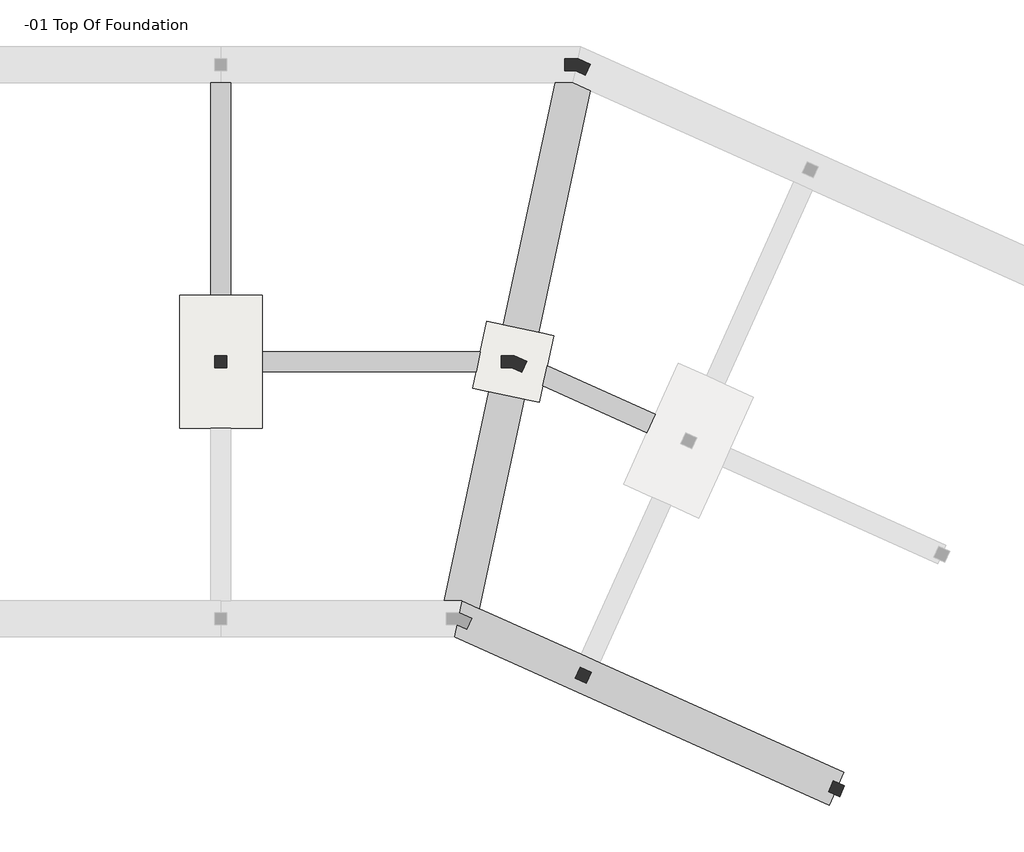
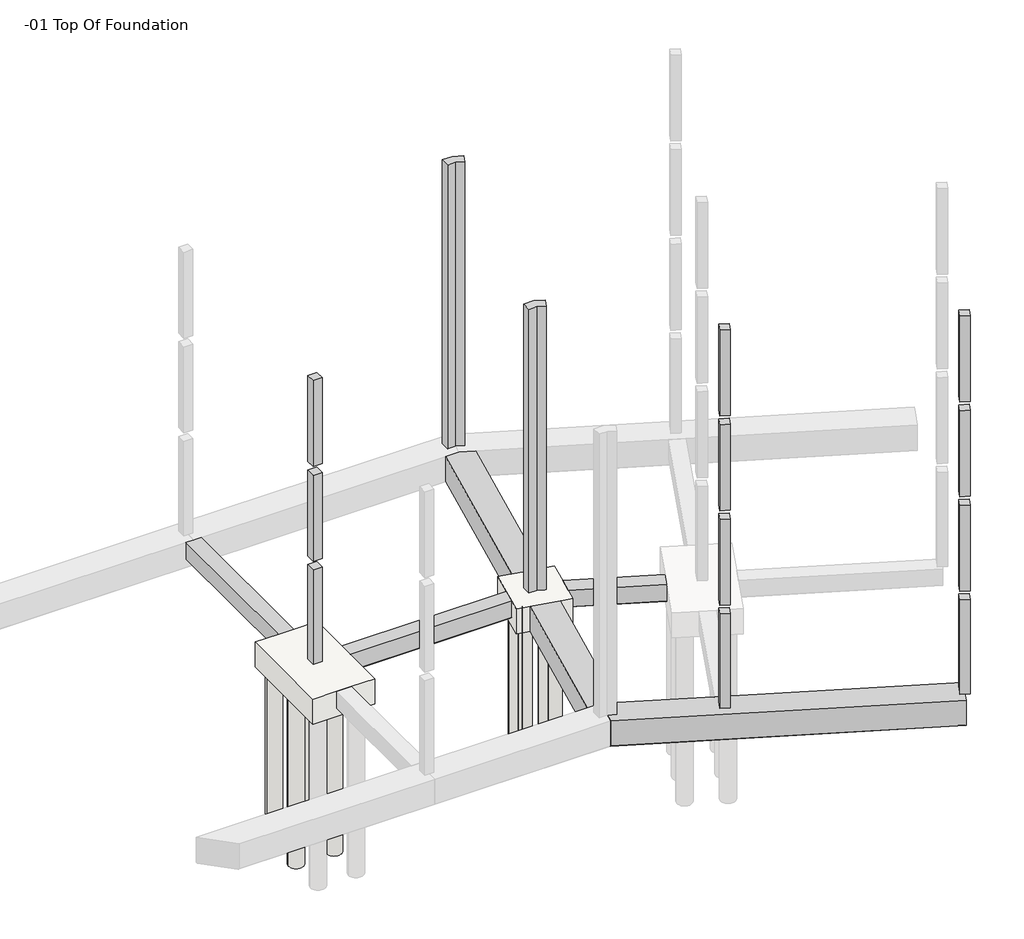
# One storey, part 3 of 4: 10 slabs, 5 beams, 5 columns.
"""IFC4 building model written with IfcOpenShell, lengths in millimetres."""

from ifc_helpers import new_model, si_unit, point, frame, frame_2d, origin, place, context, project, spatial, polyline, circle_curve, ellipse_curve, trimmed, segment, composite_curve, outline, extrude, faceted_brep, element, save
from ifc_brep_helpers import plane_surface, cylinder_surface, revolved_surface, advanced_brep

model = new_model("IFC4")

# Units and contexts
model_context = context("Model", 3, world=origin())
ifc_project = project(units=[si_unit("LENGTHUNIT", "METRE", prefix="MILLI")], contexts=[model_context])

# Site, building, storey
site = spatial("IfcSite", under=ifc_project)
building = spatial("IfcBuilding", under=site)
storey = spatial("IfcBuildingStorey", under=building, Name="-01 Top Of Foundation", Elevation=-304.8)

# Beams
placement = place(None, origin())
element("IfcBeam", 1, ObjectType="Ring Beam : 12 x 24", at=placement, inside=storey, context=model_context, shape_type="Brep", body=[
    faceted_brep([(30254.0535171, -7606.2877938, -304.8), (30145.1963742, -8114.2877938, -304.8), (32770.921512, -9293.7579091, -304.8), (32979.0776096, -8830.3627872, -304.8), (30145.1963742, -8114.2877938, -889.0), (32770.921512, -9293.7579091, -889.0), (30150.6392314, -8088.8877938, -914.4), (32781.3293169, -9270.588153, -914.4), (30248.61066, -7631.6877938, -914.4), (32968.6698047, -8853.5325433, -914.4), (30254.0535171, -7606.2877938, -889.0), (32979.0776096, -8830.3627872, -889.0)], [[[0, 1, 2, 3]], [[1, 4, 5, 2]], [[4, 6, 7, 5]], [[6, 8, 9, 7]], [[8, 10, 11, 9]], [[10, 0, 3, 11]], [[1, 0, 10, 8, 6, 4]], [[3, 2, 5, 7, 9, 11]]]),
])
element("IfcBeam", 2, ObjectType="Ring Beam : 12 x 24", at=placement, inside=storey, context=model_context, shape_type="Brep", body=[
    faceted_brep([(23050.5, -7251.7, -304.8), (23050.5, -7759.7, -304.8), (28454.7694343, -7759.7, -304.8), (28563.6265772, -7251.7, -304.8), (23050.5, -7759.7, -889.0), (28454.7694343, -7759.7, -889.0), (23050.5, -7734.3, -914.4), (28460.2122914, -7734.3, -914.4), (23050.5, -7277.1, -914.4), (28558.18372, -7277.1, -914.4), (23050.5, -7251.7, -889.0), (28563.6265772, -7251.7, -889.0)], [[[0, 1, 2, 3]], [[1, 4, 5, 2]], [[4, 6, 7, 5]], [[6, 8, 9, 7]], [[8, 10, 11, 9]], [[10, 0, 3, 11]], [[1, 0, 10, 8, 6, 4]], [[3, 2, 5, 7, 9, 11]]]),
])
element("IfcBeam", 3, ObjectType="Ring Beam : 12 x 24", at=placement, inside=storey, context=model_context, shape_type="Brep", body=[
    faceted_brep([(22263.1, -457.2, -304.8), (22009.1, -457.2, -304.8), (21755.1, -457.2, -304.8), (21755.1, -5829.3, -304.8), (22263.1, -5829.3, -304.8), (22263.1, -457.2, -889.0), (22263.1, -5829.3, -889.0), (22237.7, -457.2, -914.4), (22237.7, -5829.3, -914.4), (21780.5, -457.2, -914.4), (21780.5, -5829.3, -914.4), (21755.1, -457.2, -889.0), (21755.1, -5829.3, -889.0)], [[[0, 1, 2, 3, 4]], [[5, 0, 4, 6]], [[7, 5, 6, 8]], [[9, 7, 8, 10]], [[11, 9, 10, 12]], [[2, 11, 12, 3]], [[0, 5, 7, 9, 11, 2, 1]], [[4, 3, 12, 10, 8, 6]]]),
])
element("IfcBeam", 4, ObjectType="Ring Beam : 16 x 32", at=placement, inside=storey, context=model_context, shape_type="Brep", body=[
    faceted_brep([(28099.7244536, -13538.2, -304.8), (28034.4101679, -13843.0, -304.8), (27969.0988162, -14147.786308, -304.8), (27903.7815965, -14452.6, -304.8), (37370.2819449, -18704.9317073, -304.8), (37474.3599937, -18473.2341463, -304.8), (37744.9629205, -17870.8204878, -304.8), (31581.8077985, -15102.3443902, -304.8), (31118.4126766, -14894.1882927, -304.8), (28542.523194, -13737.104247, -304.8), (27903.7815965, -14452.6, -1193.8), (37370.2819449, -18704.9317073, -1193.8), (27909.2244536, -14427.2, -1219.2), (37380.6897498, -18681.7619512, -1219.2), (28094.2815965, -13563.6, -1219.2), (28513.3845925, -13751.8601693, -1219.2), (37734.5551156, -17893.9902439, -1219.2), (28099.7244536, -13538.2, -1193.8), (28542.523194, -13737.104247, -1193.8), (37744.9629205, -17870.8204878, -1193.8)], [[[0, 1, 2, 3, 4, 5, 6, 7, 8, 9]], [[3, 10, 11, 4]], [[10, 12, 13, 11]], [[12, 14, 15, 16, 13]], [[14, 17, 18, 19, 16, 15]], [[17, 0, 9, 8, 7, 6, 19, 18]], [[0, 17, 14, 12, 10, 3, 2, 1]], [[4, 11, 13, 16, 19, 6, 5]]]),
])
element("IfcBeam", 5, ObjectType="Ring Beam : 16 x 32", at=placement, inside=storey, context=model_context, shape_type="AdvancedBrep", body=[
    advanced_brep(
    [(31345.5946226, -656.104247, -304.8), (30902.7958822, -457.2, -304.8), (30453.0587055, -457.2, -304.8), (29143.3597284, -6569.12856, -304.8), (30037.4622558, -6760.7219587, -304.8), (31345.5946226, -656.104247, -1193.8), (30037.4622558, -6760.7219587, -1193.8), (31327.3417353, -620.0601693, -1219.2), (29994.728735, -6960.1450558, -1193.8), (29970.017132, -6954.2416514, -1219.2), (28513.3845925, -13751.8601693, -1219.2), (28094.2815965, -13563.6, -1219.2), (27670.521038, -13563.6, -1219.2), (28849.8308143, -8060.1543772, -1219.2), (29048.2445125, -7899.5308752, -1219.2), (28933.0689643, -7671.7096775, -1219.2), (29041.4242131, -7166.0518498, -1219.2), (29239.8379112, -7005.4283477, -1219.2), (29124.662363, -6777.60715, -1219.2), (30484.4781809, -431.8, -1219.2), (30908.2387393, -431.8, -1219.2), (29736.5615376, -7111.8691248, -1219.2), (29884.9297736, -7351.3159905, -1219.2), (29778.4237333, -7848.3441788, -1219.2), (29544.9681388, -8005.9716523, -1219.2), (29693.3363749, -8245.418518, -1219.2), (30453.0587055, -457.2, -1193.8), (29100.6262076, -6768.551657, -1193.8), (29143.3597284, -6569.12856, -1193.8), (28542.523194, -13737.104247, -1193.8), (28099.7244536, -13538.2, -1193.8), (28542.523194, -13737.104247, -304.8), (28099.7244536, -13538.2, -304.8), (30902.7958822, -457.2, -1193.8), (27649.987277, -13538.2, -1193.8), (27649.987277, -13538.2, -304.8), (28781.4610863, -8257.9888896, -1193.8), (29675.5636138, -8449.5822883, -1193.8), (29718.2971346, -8250.1591913, -1193.8), (29544.9681388, -8005.9716523, -1193.8), (29803.1353363, -7854.2475832, -1193.8), (29909.8905333, -7356.0566638, -1193.8), (29736.5615376, -7111.8691248, -1193.8), (29239.8379112, -7005.4283477, -1193.8), (29015.7880059, -7164.4632651, -1193.8), (28909.0328089, -7662.6541845, -1193.8), (29048.2445125, -7899.5308752, -1193.8), (28824.1946071, -8058.5657925, -1193.8), (28781.4610863, -8257.9888896, -304.8), (29675.5636138, -8449.5822883, -304.8)],
    [
        (0, 1),
        (1, 2),
        (2, 3),
        (3, 4),
        (4, 0),
        (5, 0),
        (4, 6),
        (6, 5),
        (7, 5),
        (6, 8),
        (8, 9, ellipse_curve(frame((29935.2509881, -7154.4454357, -1211.245903), z_axis=(-0.691410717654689, 0.14815943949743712, 0.7071067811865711), x_axis=(0.691410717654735, -0.14815943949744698, 0.7071067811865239)), 287.3681959, 203.2)),
        (9, 7),
        (10, 11),
        (11, 12),
        (12, 13),
        (13, 14, circle_curve(frame((28849.5550619, -7856.9545643, -1219.2), z_axis=(0.0, 0.0, 1.0), x_axis=(-0.977802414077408, 0.20952908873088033, 0.0)), 203.2)),
        (14, 15, circle_curve(frame((28849.5550619, -7856.9545643, -1219.2), z_axis=(0.0, 0.0, 1.0), x_axis=(-0.977802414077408, 0.20952908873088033, 0.0)), 203.2)),
        (15, 16),
        (16, 17, circle_curve(frame((29041.1484607, -6962.8520369, -1219.2), z_axis=(0.0, 0.0, 1.0), x_axis=(-0.977802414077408, 0.20952908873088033, 0.0)), 203.2)),
        (17, 18, circle_curve(frame((29041.1484607, -6962.8520369, -1219.2), z_axis=(0.0, 0.0, 1.0), x_axis=(-0.977802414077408, 0.20952908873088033, 0.0)), 203.2)),
        (18, 19),
        (19, 20),
        (20, 7),
        (9, 21, circle_curve(frame((29935.2509881, -7154.4454357, -1219.2), z_axis=(0.0, 0.0, 1.0), x_axis=(-0.977802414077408, 0.20952908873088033, 0.0)), 203.2)),
        (21, 22, circle_curve(frame((29935.2509881, -7154.4454357, -1219.2), z_axis=(0.0, 0.0, 1.0), x_axis=(-0.977802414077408, 0.20952908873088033, 0.0)), 203.2)),
        (22, 23),
        (23, 24, circle_curve(frame((29743.6575894, -8048.5479631, -1219.2), z_axis=(0.0, 0.0, 1.0), x_axis=(-0.977802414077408, 0.20952908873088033, 0.0)), 203.2)),
        (24, 25, circle_curve(frame((29743.6575894, -8048.5479631, -1219.2), z_axis=(0.0, 0.0, 1.0), x_axis=(-0.977802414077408, 0.20952908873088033, 0.0)), 203.2)),
        (25, 10),
        (26, 19),
        (18, 27, ellipse_curve(frame((29041.1484607, -6962.8520369, -1176.354097), z_axis=(0.691410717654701, -0.14815943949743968, 0.7071067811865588), x_axis=(-0.691410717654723, 0.1481594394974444, 0.7071067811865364)), 287.3681959, 203.2)),
        (27, 28),
        (28, 26),
        (2, 26),
        (28, 3),
        (29, 30),
        (30, 11),
        (10, 29),
        (29, 31),
        (31, 32),
        (32, 30),
        (5, 33),
        (33, 1),
        (20, 33),
        (33, 26),
        (30, 34),
        (34, 12),
        (32, 35),
        (35, 34),
        (36, 37),
        (37, 38),
        (38, 39, circle_curve(frame((29743.6575894, -8048.5479631, -1193.8), z_axis=(0.0, 0.0, -1.0), x_axis=(-0.977802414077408, 0.20952908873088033, 0.0)), 203.2)),
        (39, 40, circle_curve(frame((29743.6575894, -8048.5479631, -1193.8), z_axis=(0.0, 0.0, -1.0), x_axis=(-0.977802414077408, 0.20952908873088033, 0.0)), 203.2)),
        (40, 41),
        (41, 42, circle_curve(frame((29935.2509881, -7154.4454357, -1193.8), z_axis=(0.0, 0.0, -1.0), x_axis=(-0.977802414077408, 0.20952908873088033, 0.0)), 203.2)),
        (42, 8, circle_curve(frame((29935.2509881, -7154.4454357, -1193.8), z_axis=(0.0, 0.0, -1.0), x_axis=(-0.977802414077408, 0.20952908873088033, 0.0)), 203.2)),
        (6, 28),
        (27, 43, circle_curve(frame((29041.1484607, -6962.8520369, -1193.8), z_axis=(0.0, 0.0, -1.0), x_axis=(-0.977802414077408, 0.20952908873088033, 0.0)), 203.2)),
        (43, 44, circle_curve(frame((29041.1484607, -6962.8520369, -1193.8), z_axis=(0.0, 0.0, -1.0), x_axis=(-0.977802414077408, 0.20952908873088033, 0.0)), 203.2)),
        (44, 45),
        (45, 46, circle_curve(frame((28849.5550619, -7856.9545643, -1193.8), z_axis=(0.0, 0.0, -1.0), x_axis=(-0.977802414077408, 0.20952908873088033, 0.0)), 203.2)),
        (46, 47, circle_curve(frame((28849.5550619, -7856.9545643, -1193.8), z_axis=(0.0, 0.0, -1.0), x_axis=(-0.977802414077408, 0.20952908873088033, 0.0)), 203.2)),
        (47, 36),
        (36, 48),
        (48, 49),
        (49, 37),
        (31, 49),
        (48, 35),
        (29, 37),
        (36, 34),
        (39, 24),
        (23, 40, ellipse_curve(frame((29743.6575894, -8048.5479631, -1211.245903), z_axis=(0.691410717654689, -0.14815943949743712, -0.7071067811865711), x_axis=(0.691410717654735, -0.14815943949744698, 0.7071067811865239)), 287.3681959, 203.2)),
        (38, 25, ellipse_curve(frame((29743.6575894, -8048.5479631, -1211.245903), z_axis=(0.691410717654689, -0.14815943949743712, -0.7071067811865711), x_axis=(0.691410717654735, -0.14815943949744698, 0.7071067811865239)), 287.3681959, 203.2)),
        (42, 21),
        (41, 22, ellipse_curve(frame((29935.2509881, -7154.4454357, -1211.245903), z_axis=(0.691410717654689, -0.14815943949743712, -0.7071067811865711), x_axis=(0.691410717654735, -0.14815943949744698, 0.7071067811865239)), 287.3681959, 203.2)),
        (17, 43),
        (16, 44, ellipse_curve(frame((29041.1484607, -6962.8520369, -1176.354097), z_axis=(-0.691410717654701, 0.14815943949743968, -0.7071067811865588), x_axis=(-0.691410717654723, 0.1481594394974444, 0.7071067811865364)), 287.3681959, 203.2)),
        (15, 45, ellipse_curve(frame((28849.5550619, -7856.9545643, -1176.354097), z_axis=(0.691410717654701, -0.14815943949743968, 0.7071067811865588), x_axis=(-0.691410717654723, 0.1481594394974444, 0.7071067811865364)), 287.3681959, 203.2)),
        (14, 46),
        (13, 47, ellipse_curve(frame((28849.5550619, -7856.9545643, -1176.354097), z_axis=(-0.691410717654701, 0.14815943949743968, -0.7071067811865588), x_axis=(-0.691410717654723, 0.1481594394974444, 0.7071067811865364)), 287.3681959, 203.2)),
    ],
    [
        plane_surface(frame((30448.8310757, -476.928939, -304.8), z_axis=(0.0, 0.0, 1.0), x_axis=(-0.20952908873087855, -0.9778024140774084, 0.0))),
        plane_surface(frame((31342.9336032, -668.5223377, -304.8), z_axis=(0.9778024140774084, -0.20952908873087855, 0.0), x_axis=(-0.20952908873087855, -0.9778024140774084, 0.0))),
        plane_surface(frame((31342.9336032, -668.5223377, -1193.8), z_axis=(0.691410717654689, -0.14815943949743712, -0.7071067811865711), x_axis=(-0.20952908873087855, -0.9778024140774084, 0.0))),
        plane_surface(frame((31318.0974219, -663.2002988, -1219.2), z_axis=(0.0, 0.0, -1.0), x_axis=(-0.20952908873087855, -0.9778024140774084, 0.0))),
        plane_surface(frame((30473.6672571, -482.2509778, -1219.2), z_axis=(-0.691410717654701, 0.14815943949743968, -0.7071067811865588), x_axis=(-0.20952908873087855, -0.9778024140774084, 0.0))),
        plane_surface(frame((30448.8310757, -476.928939, -1193.8), z_axis=(-0.9778024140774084, 0.20952908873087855, 0.0), x_axis=(-0.20952908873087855, -0.9778024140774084, 0.0))),
        plane_surface(frame((37722.9702376, -17888.7863415, -1219.2), z_axis=(-0.28974131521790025, -0.6450193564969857, 0.7071067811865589), x_axis=(-0.9121951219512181, 0.4097560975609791, 0.0))),
        plane_surface(frame((37733.3780425, -17865.6165854, -1193.8), z_axis=(-0.4097560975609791, -0.9121951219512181, 0.0), x_axis=(-0.9121951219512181, 0.4097560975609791, 0.0))),
        plane_surface(frame((43093.3975546, -5933.1921951, -304.8), z_axis=(0.4097560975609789, 0.9121951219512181, 0.0), x_axis=(-0.9121951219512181, 0.4097560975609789, 0.0))),
        plane_surface(frame((43093.3975546, -5933.1921951, -1193.8), z_axis=(0.2897413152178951, 0.6450193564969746, 0.7071067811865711), x_axis=(-0.9121951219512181, 0.4097560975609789, 0.0))),
        plane_surface(frame((30800.7268229, -457.2, -304.8), z_axis=(0.0, 1.0, 0.0), x_axis=(-1.0, 0.0, 0.0))),
        plane_surface(frame((30800.7268229, -457.2, -1193.8), z_axis=(0.0, 0.707106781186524, 0.7071067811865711), x_axis=(-1.0, 0.0, 0.0))),
        plane_surface(frame((27801.7125372, -13563.6, -1219.2), z_axis=(0.0, -0.7071067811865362, 0.7071067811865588), x_axis=(-1.0, 0.0, 0.0))),
        plane_surface(frame((27801.7125372, -13538.2, -1193.8), z_axis=(0.0, -1.0, 0.0), x_axis=(-1.0, 0.0, 0.0))),
        plane_surface(frame((30055.8838688, -8531.0794858, -1193.8), z_axis=(0.0, 0.0, 1.0000000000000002), x_axis=(-0.9778024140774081, 0.20952908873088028, 0.0))),
        plane_surface(frame((28367.0235392, -8169.1808438, -304.8), z_axis=(0.20952908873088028, 0.9778024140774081, 0.0), x_axis=(0.0, 0.0, -1.0))),
        plane_surface(frame((30417.7825109, -6842.2191562, -304.8), z_axis=(-0.20952908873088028, -0.9778024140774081, 0.0), x_axis=(0.0, 0.0, -1.0))),
        revolved_surface(polyline([(29544.968138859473, -8005.9716522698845, -1008.045902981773), (29544.968138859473, -8005.9716522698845, -1414.445903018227)]), (29743.6575894, -8048.5479631, -6070.6), (0.0, 0.0, 1.0)),
        revolved_surface(polyline([(29736.56153755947, -7111.869124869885, -1008.045902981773), (29736.56153755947, -7111.869124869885, -1414.445903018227)]), (29935.2509881, -7154.4454357, -6070.6), (0.0, 0.0, 1.0)),
        revolved_surface(polyline([(28842.45901015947, -6920.2757260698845, -973.1540969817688), (28842.45901015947, -6920.2757260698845, -1379.55409701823)]), (29041.1484607, -6962.8520369, -6070.6), (0.0, 0.0, 1.0)),
        revolved_surface(polyline([(28650.86561135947, -7814.378253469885, -973.1540969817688), (28650.86561135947, -7814.378253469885, -1379.55409701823)]), (28849.5550619, -7856.9545643, -6070.6), (0.0, 0.0, 1.0)),
    ],
    [
        (0, [[1, 2, 3, 4, 5]]),
        (1, [[6, -5, 7, 8]]),
        (2, [[9, -8, 10, 11, 12]]),
        (3, [[13, 14, 15, 16, 17, 18, 19, 20, 21, 22, 23, -12, 24, 25, 26, 27, 28, 29]]),
        (4, [[30, -21, 31, 32, 33]]),
        (5, [[34, -33, 35, -3]]),
        (6, [[36, 37, -13, 38]]),
        (7, [[-36, 39, 40, 41]]),
        (8, [[42, 43, -1, -6]]),
        (9, [[-42, -9, -23, 44]]),
        (10, [[45, -34, -2, -43]]),
        (11, [[-45, -44, -22, -30]]),
        (12, [[46, 47, -14, -37]]),
        (13, [[-46, -41, 48, 49]]),
        (14, [[50, 51, 52, 53, 54, 55, 56, -10, 57, -32, 58, 59, 60, 61, 62, 63]]),
        (15, [[-50, 64, 65, 66]]),
        (16, [[-57, -7, -4, -35]]),
        (0, [[-40, 67, -65, 68, -48]]),
        (1, [[-39, 69, -66, -67]]),
        (5, [[-49, -68, -64, 70]]),
        (17, [[71, -27, 72, -53]]),
        (17, [[-71, -52, 73, -28]]),
        (2, [[-38, -29, -73, -51, -69]]),
        (18, [[74, -24, -11, -56]]),
        (18, [[-74, -55, 75, -25]]),
        (2, [[-72, -26, -75, -54]]),
        (19, [[76, -58, -31, -20]]),
        (19, [[-76, -19, 77, -59]]),
        (4, [[-77, -18, 78, -60]]),
        (20, [[79, -61, -78, -17]]),
        (20, [[-79, -16, 80, -62]]),
        (4, [[-47, -70, -63, -80, -15]]),
    ],
),
])

# Columns
element("IfcColumn", 6, ObjectType="Cranked Corner Column : CC1", at=placement, inside=storey, context=model_context, shape_type="Brep", body=[
    faceted_brep([(30695.9673107, 152.4, -304.8), (31033.3910427, 152.4, -304.8), (31341.2512132, 14.124878, -304.8), (31216.3575546, -263.9121951, -304.8), (30968.1435788, -152.4, -304.8), (30695.9673107, -152.4, -304.8), (30695.9673107, 152.4, 9753.6), (31033.3910427, 152.4, 9753.6), (31341.2512132, 14.124878, 9753.6), (31341.2512132, 14.124878, 6705.6), (31341.2512132, 14.124878, 6400.8), (31341.2512132, 14.124878, 3352.8), (31341.2512132, 14.124878, 3048.0), (31341.2512132, 14.124878, 0.0), (31216.3575546, -263.9121951, 9753.6), (31216.3575546, -263.9121951, 6705.6), (31216.3575546, -263.9121951, 6400.8), (31216.3575546, -263.9121951, 3352.8), (31216.3575546, -263.9121951, 3048.0), (31216.3575546, -263.9121951, 0.0), (30968.1435788, -152.4, 9753.6), (30695.9673107, -152.4, 9753.6)], [[[0, 1, 2, 3, 4, 5]], [[6, 7, 1, 0]], [[7, 8, 9, 10, 11, 12, 13, 2, 1]], [[8, 14, 15, 16, 17, 18, 19, 3, 2, 13, 12, 11, 10, 9]], [[14, 20, 4, 3, 19, 18, 17, 16, 15]], [[20, 21, 5, 4]], [[21, 6, 0, 5]], [[6, 21, 20, 14, 8, 7]]]),
])
element("IfcColumn", 7, ObjectType="Cranked Corner Column : CC1", at=placement, inside=storey, context=model_context, shape_type="Brep", body=[
    faceted_brep([(29087.603025, -7353.3, -304.8), (29425.026757, -7353.3, -304.8), (29732.8869275, -7491.575122, -304.8), (29607.9932689, -7769.6121951, -304.8), (29359.7792931, -7658.1, -304.8), (29087.603025, -7658.1, -304.8), (29087.603025, -7353.3, 9753.6), (29425.026757, -7353.3, 9753.6), (29732.8869275, -7491.575122, 9753.6), (29732.8869275, -7491.575122, 6705.6), (29732.8869275, -7491.575122, 6400.8), (29732.8869275, -7491.575122, 3352.8), (29732.8869275, -7491.575122, 3048.0), (29732.8869275, -7491.575122, 0.0), (29607.9932689, -7769.6121951, 9753.6), (29607.9932689, -7769.6121951, 6705.6), (29607.9932689, -7769.6121951, 6400.8), (29607.9932689, -7769.6121951, 3352.8), (29607.9932689, -7769.6121951, 3048.0), (29607.9932689, -7769.6121951, 0.0), (29359.7792931, -7658.1, 9753.6), (29087.603025, -7658.1, 9753.6)], [[[0, 1, 2, 3, 4, 5]], [[6, 7, 1, 0]], [[7, 8, 9, 10, 11, 12, 13, 2, 1]], [[8, 14, 15, 16, 17, 18, 19, 3, 2, 13, 12, 11, 10, 9]], [[14, 20, 4, 3, 19, 18, 17, 16, 15]], [[20, 21, 5, 4]], [[21, 6, 0, 5]], [[6, 21, 20, 14, 8, 7]]]),
])
element("IfcColumn", 8, ObjectType="Concrete-Rectangular-Column : 12 x 12", at=placement, inside=storey, context=model_context, shape_type="Brep", body=[
    faceted_brep([(22161.5, -7353.3, -304.8), (22161.5, -7658.1, -304.8), (21856.7, -7658.1, -304.8), (21856.7, -7353.3, -304.8), (22161.5, -7658.1, 3048.0), (22161.5, -7353.3, 3048.0), (21856.7, -7353.3, 3048.0), (21856.7, -7658.1, 3048.0), (22161.5, -7353.3, 0.0), (22161.5, -7658.1, 0.0), (21856.7, -7658.1, 0.0), (21856.7, -7353.3, 0.0)], [[[0, 1, 2, 3]], [[4, 5, 6, 7]], [[1, 0, 8, 5, 4, 9]], [[2, 1, 9, 4, 7, 10]], [[3, 2, 10, 7, 6, 11]], [[0, 3, 11, 6, 5, 8]]]),
    faceted_brep([(22161.5, -7658.1, 6705.6), (22161.5, -7353.3, 6705.6), (22161.5, -7353.3, 9753.6), (22161.5, -7658.1, 9753.6), (21856.7, -7658.1, 6705.6), (21856.7, -7658.1, 9753.6), (21856.7, -7353.3, 6705.6), (21856.7, -7353.3, 9753.6)], [[[0, 1, 2, 3]], [[4, 0, 3, 5]], [[6, 4, 5, 7]], [[1, 6, 7, 2]], [[1, 0, 4, 6]], [[3, 2, 7, 5]]]),
    faceted_brep([(22161.5, -7658.1, 6400.8), (22161.5, -7353.3, 6400.8), (21856.7, -7353.3, 6400.8), (21856.7, -7658.1, 6400.8), (22161.5, -7658.1, 3352.8), (22161.5, -7353.3, 3352.8), (21856.7, -7658.1, 3352.8), (21856.7, -7353.3, 3352.8)], [[[0, 1, 2, 3]], [[1, 0, 4, 5]], [[0, 3, 6, 4]], [[3, 2, 7, 6]], [[2, 1, 5, 7]], [[5, 4, 6, 7]]]),
])
element("IfcColumn", 9, ObjectType="Concrete-Rectangular-Column : 12 x 12", at=placement, inside=storey, context=model_context, shape_type="Brep", body=[
    faceted_brep([(37481.0507254, -18086.4107317, -304.8), (37759.0877985, -18211.3043902, -304.8), (37634.19414, -18489.3414634, -304.8), (37356.1570668, -18364.4478049, -304.8), (37759.0877985, -18211.3043902, 3048.0), (37481.0507254, -18086.4107317, 3048.0), (37356.1570668, -18364.4478049, 3048.0), (37634.19414, -18489.3414634, 3048.0), (37481.0507254, -18086.4107317, 0.0), (37759.0877985, -18211.3043902, 0.0), (37634.19414, -18489.3414634, 0.0), (37356.1570668, -18364.4478049, 0.0)], [[[0, 1, 2, 3]], [[4, 5, 6, 7]], [[1, 0, 8, 5, 4, 9]], [[2, 1, 9, 4, 7, 10]], [[3, 2, 10, 7, 6, 11]], [[0, 3, 11, 6, 5, 8]]]),
    faceted_brep([(37759.0877985, -18211.3043902, 10058.4), (37481.0507254, -18086.4107317, 10058.4), (37481.0507254, -18086.4107317, 13106.4), (37759.0877985, -18211.3043902, 13106.4), (37634.19414, -18489.3414634, 10058.4), (37634.19414, -18489.3414634, 13106.4), (37356.1570668, -18364.4478049, 10058.4), (37356.1570668, -18364.4478049, 13106.4)], [[[0, 1, 2, 3]], [[4, 0, 3, 5]], [[6, 4, 5, 7]], [[1, 6, 7, 2]], [[1, 0, 4, 6]], [[3, 2, 7, 5]]]),
    faceted_brep([(37481.0507254, -18086.4107317, 3352.8), (37759.0877985, -18211.3043902, 3352.8), (37634.19414, -18489.3414634, 3352.8), (37356.1570668, -18364.4478049, 3352.8), (37759.0877985, -18211.3043902, 6400.8), (37481.0507254, -18086.4107317, 6400.8), (37356.1570668, -18364.4478049, 6400.8), (37634.19414, -18489.3414634, 6400.8)], [[[0, 1, 2, 3]], [[4, 5, 6, 7]], [[1, 0, 5, 4]], [[2, 1, 4, 7]], [[3, 2, 7, 6]], [[0, 3, 6, 5]]]),
    faceted_brep([(37481.0507254, -18086.4107317, 6705.6), (37759.0877985, -18211.3043902, 6705.6), (37634.19414, -18489.3414634, 6705.6), (37356.1570668, -18364.4478049, 6705.6), (37759.0877985, -18211.3043902, 9753.6), (37481.0507254, -18086.4107317, 9753.6), (37356.1570668, -18364.4478049, 9753.6), (37634.19414, -18489.3414634, 9753.6)], [[[0, 1, 2, 3]], [[4, 5, 6, 7]], [[1, 0, 5, 4]], [[2, 1, 4, 7]], [[3, 2, 7, 6]], [[0, 3, 6, 5]]]),
])
element("IfcColumn", 10, ObjectType="Concrete-Rectangular-Column : 12 x 12", at=placement, inside=storey, context=model_context, shape_type="Brep", body=[
    faceted_brep([(31086.1980425, -15213.8565854, -304.8), (31364.2351156, -15338.7502439, -304.8), (31239.3414571, -15616.7873171, -304.8), (30961.3043839, -15491.8936585, -304.8), (31364.2351156, -15338.7502439, 3048.0), (31086.1980425, -15213.8565854, 3048.0), (30961.3043839, -15491.8936585, 3048.0), (31239.3414571, -15616.7873171, 3048.0), (31086.1980425, -15213.8565854, 0.0), (31364.2351156, -15338.7502439, 0.0), (31239.3414571, -15616.7873171, 0.0), (30961.3043839, -15491.8936585, 0.0)], [[[0, 1, 2, 3]], [[4, 5, 6, 7]], [[1, 0, 8, 5, 4, 9]], [[2, 1, 9, 4, 7, 10]], [[3, 2, 10, 7, 6, 11]], [[0, 3, 11, 6, 5, 8]]]),
    faceted_brep([(31364.2351156, -15338.7502439, 10058.4), (31086.1980425, -15213.8565854, 10058.4), (31086.1980425, -15213.8565854, 13106.4), (31364.2351156, -15338.7502439, 13106.4), (31239.3414571, -15616.7873171, 10058.4), (31239.3414571, -15616.7873171, 13106.4), (30961.3043839, -15491.8936585, 10058.4), (30961.3043839, -15491.8936585, 13106.4)], [[[0, 1, 2, 3]], [[4, 0, 3, 5]], [[6, 4, 5, 7]], [[1, 6, 7, 2]], [[1, 0, 4, 6]], [[3, 2, 7, 5]]]),
    faceted_brep([(31086.1980425, -15213.8565854, 3352.8), (31364.2351156, -15338.7502439, 3352.8), (31239.3414571, -15616.7873171, 3352.8), (30961.3043839, -15491.8936585, 3352.8), (31364.2351156, -15338.7502439, 6400.8), (31086.1980425, -15213.8565854, 6400.8), (30961.3043839, -15491.8936585, 6400.8), (31239.3414571, -15616.7873171, 6400.8)], [[[0, 1, 2, 3]], [[4, 5, 6, 7]], [[1, 0, 5, 4]], [[2, 1, 4, 7]], [[3, 2, 7, 6]], [[0, 3, 6, 5]]]),
    faceted_brep([(31086.1980425, -15213.8565854, 6705.6), (31364.2351156, -15338.7502439, 6705.6), (31239.3414571, -15616.7873171, 6705.6), (30961.3043839, -15491.8936585, 6705.6), (31364.2351156, -15338.7502439, 9753.6), (31086.1980425, -15213.8565854, 9753.6), (30961.3043839, -15491.8936585, 9753.6), (31239.3414571, -15616.7873171, 9753.6)], [[[0, 1, 2, 3]], [[4, 5, 6, 7]], [[1, 0, 5, 4]], [[2, 1, 4, 7]], [[3, 2, 7, 6]], [[0, 3, 6, 5]]]),
])

# Slabs
element("IfcSlab", 11, ObjectType="Pile Cap-4 Pile : 68\"x68\"x35\"", at=placement, inside=storey, context=model_context, shape_type="Brep", body=[
    faceted_brep([(28367.0235392, -8169.1808438, -304.8), (28781.4610863, -8257.9888896, -304.8), (29675.5636138, -8449.5822883, -304.8), (30055.8838688, -8531.0794858, -304.8), (30145.1963742, -8114.2877938, -304.8), (30254.0535171, -7606.2877938, -304.8), (30417.7825109, -6842.2191562, -304.8), (30037.4622558, -6760.7219587, -304.8), (29143.3597284, -6569.12856, -304.8), (28728.9221813, -6480.3205142, -304.8), (28563.6265772, -7251.7, -304.8), (28454.7694343, -7759.7, -304.8), (28367.0235392, -8169.1808438, -1193.8), (28728.9221813, -6480.3205142, -1193.8), (29143.3597284, -6569.12856, -1193.8), (30037.4622558, -6760.7219587, -1193.8), (30417.7825109, -6842.2191562, -1193.8), (30055.8838688, -8531.0794858, -1193.8), (29675.5636138, -8449.5822883, -1193.8), (28781.4610863, -8257.9888896, -1193.8)], [[[0, 1, 2, 3, 4, 5, 6, 7, 8, 9, 10, 11]], [[12, 13, 14, 15, 16, 17, 18, 19]], [[3, 2, 1, 0, 12, 19, 18, 17]], [[6, 5, 4, 3, 17, 16]], [[9, 8, 7, 6, 16, 15, 14, 13]], [[0, 11, 10, 9, 13, 12]]]),
])
element("IfcSlab", 12, ObjectType="Pile Cap-6 Pile : 132\"x82\"x35\"", at=placement, inside=storey, context=model_context, shape_type="Brep", body=[
    faceted_brep([(20967.7, -9182.1, -304.8), (21755.1, -9182.1, -304.8), (22263.1, -9182.1, -304.8), (23050.5, -9182.1, -304.8), (23050.5, -7759.7, -304.8), (23050.5, -7251.7, -304.8), (23050.5, -5829.3, -304.8), (22263.1, -5829.3, -304.8), (21755.1, -5829.3, -304.8), (20967.7, -5829.3, -304.8), (20967.7, -9182.1, -1193.8), (20967.7, -5829.3, -1193.8), (23050.5, -5829.3, -1193.8), (23050.5, -9182.1, -1193.8)], [[[0, 1, 2, 3, 4, 5, 6, 7, 8, 9]], [[10, 11, 12, 13]], [[3, 2, 1, 0, 10, 13]], [[6, 5, 4, 3, 13, 12]], [[9, 8, 7, 6, 12, 11]], [[0, 9, 11, 10]]]),
])
element("IfcSlab", 13, ObjectType="Round In Situ Concrete Pile : 16\" Diameter 16'", at=placement, inside=storey, context=model_context, shape_type="AdvancedBrep", body=[
    advanced_brep(
    [(29942.3470399, -8091.1242739, -6070.6), (29544.9681388, -8005.9716523, -6070.6), (29544.9681388, -8005.9716523, -1193.8), (29803.1353363, -7854.2475832, -1193.8), (29942.3470399, -8091.1242739, -1193.8), (29718.2971346, -8250.1591913, -1193.8)],
    [
        (0, 1, circle_curve(frame((29743.6575894, -8048.5479631, -6070.6), z_axis=(0.0, 0.0, -1.0), x_axis=(-0.977802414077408, 0.20952908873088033, 0.0)), 203.2)),
        (1, 0, circle_curve(frame((29743.6575894, -8048.5479631, -6070.6), z_axis=(0.0, 0.0, -1.0), x_axis=(-0.977802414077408, 0.20952908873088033, 0.0)), 203.2)),
        (1, 2),
        (2, 3, circle_curve(frame((29743.6575894, -8048.5479631, -1193.8), z_axis=(0.0, 0.0, -1.0), x_axis=(-0.977802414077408, 0.20952908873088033, 0.0)), 203.2)),
        (3, 4, circle_curve(frame((29743.6575894, -8048.5479631, -1193.8), z_axis=(0.0, 0.0, -1.0), x_axis=(-0.977802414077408, 0.20952908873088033, 0.0)), 203.2)),
        (4, 0),
        (4, 5, circle_curve(frame((29743.6575894, -8048.5479631, -1193.8), z_axis=(0.0, 0.0, -1.0), x_axis=(-0.977802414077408, 0.20952908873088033, 0.0)), 203.2)),
        (5, 2, circle_curve(frame((29743.6575894, -8048.5479631, -1193.8), z_axis=(0.0, 0.0, -1.0), x_axis=(-0.977802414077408, 0.20952908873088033, 0.0)), 203.2)),
    ],
    [
        plane_surface(frame((29544.9681388, -8005.9716523, -6070.6), z_axis=(0.0, 0.0, -1.0), x_axis=(0.20952908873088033, 0.977802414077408, 0.0))),
        cylinder_surface(frame((29743.6575894, -8048.5479631, -6070.6), z_axis=(0.0, 0.0, 1.0), x_axis=(-0.977802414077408, 0.20952908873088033, 0.0)), 203.2),
        plane_surface(frame((30055.8838688, -8531.0794858, -1193.8), z_axis=(0.0, 0.0, 1.0000000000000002), x_axis=(-0.9778024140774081, 0.20952908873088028, 0.0))),
    ],
    [
        (0, [[1, 2]]),
        (1, [[-2, 3, 4, 5, 6]]),
        (1, [[-1, -6, 7, 8, -3]]),
        (2, [[-5, -4, -8, -7]]),
    ],
),
])
element("IfcSlab", 14, ObjectType="Round In Situ Concrete Pile : 16\" Diameter 16'", at=placement, inside=storey, context=model_context, shape_type="AdvancedBrep", body=[
    advanced_brep(
    [(30133.9404387, -7197.0217465, -6070.6), (29736.5615376, -7111.8691248, -6070.6), (29736.5615376, -7111.8691248, -1193.8), (29994.728735, -6960.1450558, -1193.8), (30133.9404387, -7197.0217465, -1193.8), (29909.8905333, -7356.0566638, -1193.8)],
    [
        (0, 1, circle_curve(frame((29935.2509881, -7154.4454357, -6070.6), z_axis=(0.0, 0.0, -1.0), x_axis=(-0.977802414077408, 0.20952908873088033, 0.0)), 203.2)),
        (1, 0, circle_curve(frame((29935.2509881, -7154.4454357, -6070.6), z_axis=(0.0, 0.0, -1.0), x_axis=(-0.977802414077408, 0.20952908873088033, 0.0)), 203.2)),
        (1, 2),
        (2, 3, circle_curve(frame((29935.2509881, -7154.4454357, -1193.8), z_axis=(0.0, 0.0, -1.0), x_axis=(-0.977802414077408, 0.20952908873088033, 0.0)), 203.2)),
        (3, 4, circle_curve(frame((29935.2509881, -7154.4454357, -1193.8), z_axis=(0.0, 0.0, -1.0), x_axis=(-0.977802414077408, 0.20952908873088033, 0.0)), 203.2)),
        (4, 0),
        (4, 5, circle_curve(frame((29935.2509881, -7154.4454357, -1193.8), z_axis=(0.0, 0.0, -1.0), x_axis=(-0.977802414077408, 0.20952908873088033, 0.0)), 203.2)),
        (5, 2, circle_curve(frame((29935.2509881, -7154.4454357, -1193.8), z_axis=(0.0, 0.0, -1.0), x_axis=(-0.977802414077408, 0.20952908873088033, 0.0)), 203.2)),
    ],
    [
        plane_surface(frame((29736.5615376, -7111.8691248, -6070.6), z_axis=(0.0, 0.0, -1.0), x_axis=(0.20952908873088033, 0.977802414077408, 0.0))),
        cylinder_surface(frame((29935.2509881, -7154.4454357, -6070.6), z_axis=(0.0, 0.0, 1.0), x_axis=(-0.977802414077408, 0.20952908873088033, 0.0)), 203.2),
        plane_surface(frame((30055.8838688, -8531.0794858, -1193.8), z_axis=(0.0, 0.0, 1.0000000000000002), x_axis=(-0.9778024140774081, 0.20952908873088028, 0.0))),
    ],
    [
        (0, [[1, 2]]),
        (1, [[-2, 3, 4, 5, 6]]),
        (1, [[-1, -6, 7, 8, -3]]),
        (2, [[-5, -4, -8, -7]]),
    ],
),
])
element("IfcSlab", 15, ObjectType="Round In Situ Concrete Pile : 16\" Diameter 16'", at=placement, inside=storey, context=model_context, shape_type="AdvancedBrep", body=[
    advanced_brep(
    [(29239.8379112, -7005.4283477, -6070.6), (28842.4590101, -6920.2757261, -6070.6), (28842.4590101, -6920.2757261, -1193.8), (29100.6262076, -6768.551657, -1193.8), (29239.8379112, -7005.4283477, -1193.8), (29015.7880059, -7164.4632651, -1193.8)],
    [
        (0, 1, circle_curve(frame((29041.1484607, -6962.8520369, -6070.6), z_axis=(0.0, 0.0, -1.0), x_axis=(-0.977802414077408, 0.20952908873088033, 0.0)), 203.2)),
        (1, 0, circle_curve(frame((29041.1484607, -6962.8520369, -6070.6), z_axis=(0.0, 0.0, -1.0), x_axis=(-0.977802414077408, 0.20952908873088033, 0.0)), 203.2)),
        (1, 2),
        (2, 3, circle_curve(frame((29041.1484607, -6962.8520369, -1193.8), z_axis=(0.0, 0.0, -1.0), x_axis=(-0.977802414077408, 0.20952908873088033, 0.0)), 203.2)),
        (3, 4, circle_curve(frame((29041.1484607, -6962.8520369, -1193.8), z_axis=(0.0, 0.0, -1.0), x_axis=(-0.977802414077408, 0.20952908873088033, 0.0)), 203.2)),
        (4, 0),
        (4, 5, circle_curve(frame((29041.1484607, -6962.8520369, -1193.8), z_axis=(0.0, 0.0, -1.0), x_axis=(-0.977802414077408, 0.20952908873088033, 0.0)), 203.2)),
        (5, 2, circle_curve(frame((29041.1484607, -6962.8520369, -1193.8), z_axis=(0.0, 0.0, -1.0), x_axis=(-0.977802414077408, 0.20952908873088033, 0.0)), 203.2)),
    ],
    [
        plane_surface(frame((28842.4590101, -6920.2757261, -6070.6), z_axis=(0.0, 0.0, -1.0), x_axis=(0.20952908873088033, 0.977802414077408, 0.0))),
        cylinder_surface(frame((29041.1484607, -6962.8520369, -6070.6), z_axis=(0.0, 0.0, 1.0), x_axis=(-0.977802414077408, 0.20952908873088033, 0.0)), 203.2),
        plane_surface(frame((30055.8838688, -8531.0794858, -1193.8), z_axis=(0.0, 0.0, 1.0000000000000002), x_axis=(-0.9778024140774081, 0.20952908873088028, 0.0))),
    ],
    [
        (0, [[1, 2]]),
        (1, [[-2, 3, 4, 5, 6]]),
        (1, [[-1, -6, 7, 8, -3]]),
        (2, [[-5, -4, -8, -7]]),
    ],
),
])
element("IfcSlab", 16, ObjectType="Round In Situ Concrete Pile : 16\" Diameter 16'", at=placement, inside=storey, context=model_context, shape_type="AdvancedBrep", body=[
    advanced_brep(
    [(29048.2445125, -7899.5308752, -6070.6), (28650.8656114, -7814.3782535, -6070.6), (28650.8656114, -7814.3782535, -1193.8), (28909.0328089, -7662.6541845, -1193.8), (29048.2445125, -7899.5308752, -1193.8), (28824.1946071, -8058.5657925, -1193.8)],
    [
        (0, 1, circle_curve(frame((28849.5550619, -7856.9545643, -6070.6), z_axis=(0.0, 0.0, -1.0), x_axis=(-0.977802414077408, 0.20952908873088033, 0.0)), 203.2)),
        (1, 0, circle_curve(frame((28849.5550619, -7856.9545643, -6070.6), z_axis=(0.0, 0.0, -1.0), x_axis=(-0.977802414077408, 0.20952908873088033, 0.0)), 203.2)),
        (1, 2),
        (2, 3, circle_curve(frame((28849.5550619, -7856.9545643, -1193.8), z_axis=(0.0, 0.0, -1.0), x_axis=(-0.977802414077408, 0.20952908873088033, 0.0)), 203.2)),
        (3, 4, circle_curve(frame((28849.5550619, -7856.9545643, -1193.8), z_axis=(0.0, 0.0, -1.0), x_axis=(-0.977802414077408, 0.20952908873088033, 0.0)), 203.2)),
        (4, 0),
        (4, 5, circle_curve(frame((28849.5550619, -7856.9545643, -1193.8), z_axis=(0.0, 0.0, -1.0), x_axis=(-0.977802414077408, 0.20952908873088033, 0.0)), 203.2)),
        (5, 2, circle_curve(frame((28849.5550619, -7856.9545643, -1193.8), z_axis=(0.0, 0.0, -1.0), x_axis=(-0.977802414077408, 0.20952908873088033, 0.0)), 203.2)),
    ],
    [
        plane_surface(frame((28650.8656114, -7814.3782535, -6070.6), z_axis=(0.0, 0.0, -1.0), x_axis=(0.20952908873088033, 0.977802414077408, 0.0))),
        cylinder_surface(frame((28849.5550619, -7856.9545643, -6070.6), z_axis=(0.0, 0.0, 1.0), x_axis=(-0.977802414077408, 0.20952908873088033, 0.0)), 203.2),
        plane_surface(frame((30055.8838688, -8531.0794858, -1193.8), z_axis=(0.0, 0.0, 1.0000000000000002), x_axis=(-0.9778024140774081, 0.20952908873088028, 0.0))),
    ],
    [
        (0, [[1, 2]]),
        (1, [[-2, 3, 4, 5, 6]]),
        (1, [[-1, -6, 7, 8, -3]]),
        (2, [[-5, -4, -8, -7]]),
    ],
),
])
element("IfcSlab", 17, ObjectType="Round In Situ Concrete Pile : 20\" Diameter", at=placement, inside=storey, context=model_context, shape_type="SweptSolid", body=[
    extrude(outline(composite_curve([segment(trimmed(circle_curve(frame_2d((22644.1, -6235.7)), 254.0), [point((22898.1, -6235.7))], [point((22390.1, -6235.7))], False, "CARTESIAN"), True, "CONTINUOUS"), segment(trimmed(circle_curve(frame_2d((22644.1, -6235.7)), 254.0), [point((22390.1, -6235.7))], [point((22898.1, -6235.7))], False, "CARTESIAN"), True, "CONTINUOUS")], self_intersect=False)), frame((0.0, 0.0, -7289.8), z_axis=(0.0, 0.0, 1.0), x_axis=(1.0, 0.0, 0.0)), (0.0, 0.0, 1.0), 6096.0),
])
element("IfcSlab", 18, ObjectType="Round In Situ Concrete Pile : 20\" Diameter", at=placement, inside=storey, context=model_context, shape_type="SweptSolid", body=[
    extrude(outline(composite_curve([segment(trimmed(circle_curve(frame_2d((21374.1, -6235.7)), 254.0), [point((21628.1, -6235.7))], [point((21120.1, -6235.7))], False, "CARTESIAN"), True, "CONTINUOUS"), segment(trimmed(circle_curve(frame_2d((21374.1, -6235.7)), 254.0), [point((21120.1, -6235.7))], [point((21628.1, -6235.7))], False, "CARTESIAN"), True, "CONTINUOUS")], self_intersect=False)), frame((0.0, 0.0, -7289.8), z_axis=(0.0, 0.0, 1.0), x_axis=(1.0, 0.0, 0.0)), (0.0, 0.0, 1.0), 6096.0),
])
element("IfcSlab", 19, ObjectType="Round In Situ Concrete Pile : 20\" Diameter", at=placement, inside=storey, context=model_context, shape_type="SweptSolid", body=[
    extrude(outline(composite_curve([segment(trimmed(circle_curve(frame_2d((22644.1, -7505.7)), 254.0), [point((22898.1, -7505.7))], [point((22390.1, -7505.7))], False, "CARTESIAN"), True, "CONTINUOUS"), segment(trimmed(circle_curve(frame_2d((22644.1, -7505.7)), 254.0), [point((22390.1, -7505.7))], [point((22898.1, -7505.7))], False, "CARTESIAN"), True, "CONTINUOUS")], self_intersect=False)), frame((0.0, 0.0, -7289.8), z_axis=(0.0, 0.0, 1.0), x_axis=(1.0, 0.0, 0.0)), (0.0, 0.0, 1.0), 6096.0),
])
element("IfcSlab", 20, ObjectType="Round In Situ Concrete Pile : 20\" Diameter", at=placement, inside=storey, context=model_context, shape_type="SweptSolid", body=[
    extrude(outline(composite_curve([segment(trimmed(circle_curve(frame_2d((21374.1, -7505.7)), 254.0), [point((21628.1, -7505.7))], [point((21120.1, -7505.7))], False, "CARTESIAN"), True, "CONTINUOUS"), segment(trimmed(circle_curve(frame_2d((21374.1, -7505.7)), 254.0), [point((21120.1, -7505.7))], [point((21628.1, -7505.7))], False, "CARTESIAN"), True, "CONTINUOUS")], self_intersect=False)), frame((0.0, 0.0, -7289.8), z_axis=(0.0, 0.0, 1.0), x_axis=(1.0, 0.0, 0.0)), (0.0, 0.0, 1.0), 6096.0),
])

save(model, "model.ifc")
